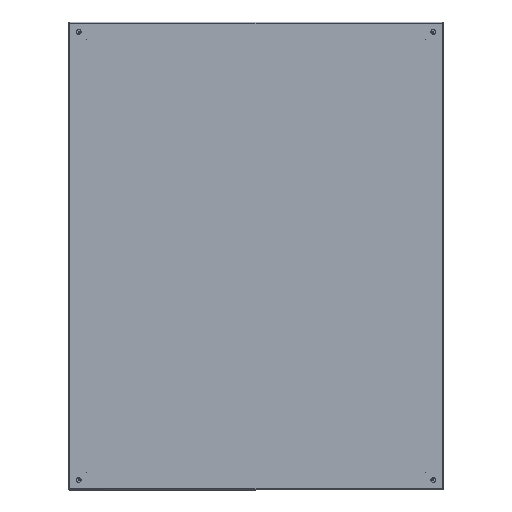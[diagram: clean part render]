
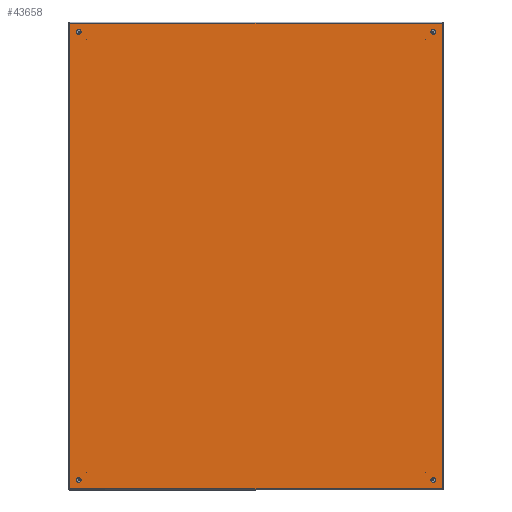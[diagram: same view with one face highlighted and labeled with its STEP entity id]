
A CAD part, top view. The second image highlights one B-rep face of the part: STEP entity #43658.
In plain terms, the highlighted planar face has unit normal (0, 0, 1).
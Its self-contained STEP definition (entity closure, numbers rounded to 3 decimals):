
#34 = FACE_OUTER_BOUND ( 'NONE', #14888, .T. ) ;
#337 = AXIS2_PLACEMENT_3D ( 'NONE', #46248, #38093, #42049 ) ;
#678 = EDGE_CURVE ( 'NONE', #11462, #45188, #27930, .T. ) ;
#741 = VERTEX_POINT ( 'NONE', #36334 ) ;
#1684 = DIRECTION ( 'NONE',  ( 0., 1., 0. ) ) ;
#1849 = CIRCLE ( 'NONE', #337, 5.1 ) ;
#2571 = AXIS2_PLACEMENT_3D ( 'NONE', #22077, #37409, #7241 ) ;
#2983 = CIRCLE ( 'NONE', #32227, 5.1 ) ;
#3221 = VERTEX_POINT ( 'NONE', #13424 ) ;
#3316 = EDGE_CURVE ( 'NONE', #3892, #46214, #2983, .T. ) ;
#3892 = VERTEX_POINT ( 'NONE', #38232 ) ;
#4427 = CARTESIAN_POINT ( 'NONE',  ( -379., 479., 0. ) ) ;
#4939 = CARTESIAN_POINT ( 'NONE',  ( 373.9, -479., 0. ) ) ;
#5797 = EDGE_CURVE ( 'NONE', #47337, #22203, #1849, .T. ) ;
#6408 = CARTESIAN_POINT ( 'NONE',  ( -397.65, -5500., 0. ) ) ;
#6475 = DIRECTION ( 'NONE',  ( -1., 0., 0. ) ) ;
#6547 = AXIS2_PLACEMENT_3D ( 'NONE', #26204, #18074, #41308 ) ;
#6582 = CARTESIAN_POINT ( 'NONE',  ( 397.65, 5500., 0. ) ) ;
#6800 = ORIENTED_EDGE ( 'NONE', *, *, #48860, .F. ) ;
#7167 = CARTESIAN_POINT ( 'NONE',  ( -397.65, 497.65, 0. ) ) ;
#7241 = DIRECTION ( 'NONE',  ( -1., 0., 0. ) ) ;
#8147 = ORIENTED_EDGE ( 'NONE', *, *, #44172, .F. ) ;
#8198 = CARTESIAN_POINT ( 'NONE',  ( 0., 0., 0. ) ) ;
#8237 = DIRECTION ( 'NONE',  ( 0., -1., 0. ) ) ;
#8388 = CARTESIAN_POINT ( 'NONE',  ( 397.65, 497.65, 0. ) ) ;
#8822 = ORIENTED_EDGE ( 'NONE', *, *, #20153, .F. ) ;
#9001 = EDGE_LOOP ( 'NONE', ( #8147, #10900 ) ) ;
#9808 = EDGE_CURVE ( 'NONE', #45188, #31794, #9851, .T. ) ;
#9851 = LINE ( 'NONE', #24639, #47131 ) ;
#10519 = CIRCLE ( 'NONE', #2571, 5.1 ) ;
#10900 = ORIENTED_EDGE ( 'NONE', *, *, #20800, .F. ) ;
#11462 = VERTEX_POINT ( 'NONE', #18913 ) ;
#11867 = DIRECTION ( 'NONE',  ( 1., 0., 0. ) ) ;
#12352 = EDGE_LOOP ( 'NONE', ( #40406, #8822 ) ) ;
#12721 = CIRCLE ( 'NONE', #28489, 5.1 ) ;
#13138 = ORIENTED_EDGE ( 'NONE', *, *, #27405, .F. ) ;
#13424 = CARTESIAN_POINT ( 'NONE',  ( 397.65, -497.65, 0. ) ) ;
#13839 = EDGE_CURVE ( 'NONE', #31794, #3221, #29581, .T. ) ;
#13926 = VECTOR ( 'NONE', #1684, 1000. ) ;
#14400 = FACE_BOUND ( 'NONE', #42721, .T. ) ;
#14683 = DIRECTION ( 'NONE',  ( -1., 0., 0. ) ) ;
#14888 = EDGE_LOOP ( 'NONE', ( #38091, #25853, #40216, #42588 ) ) ;
#15058 = CARTESIAN_POINT ( 'NONE',  ( 379., -479., 0. ) ) ;
#17425 = VERTEX_POINT ( 'NONE', #37516 ) ;
#17613 = FACE_BOUND ( 'NONE', #12352, .T. ) ;
#18074 = DIRECTION ( 'NONE',  ( 0., 0., 1. ) ) ;
#18129 = LINE ( 'NONE', #40376, #36572 ) ;
#18607 = CIRCLE ( 'NONE', #37532, 5.1 ) ;
#18913 = CARTESIAN_POINT ( 'NONE',  ( -397.65, -497.65, 0. ) ) ;
#18920 = DIRECTION ( 'NONE',  ( 0., 0., 1. ) ) ;
#19073 = DIRECTION ( 'NONE',  ( -1., 0., 0. ) ) ;
#19154 = DIRECTION ( 'NONE',  ( -1., 0., 0. ) ) ;
#19219 = DIRECTION ( 'NONE',  ( 0., 0., 1. ) ) ;
#20153 = EDGE_CURVE ( 'NONE', #22203, #47337, #34168, .T. ) ;
#20800 = EDGE_CURVE ( 'NONE', #17425, #23856, #31808, .T. ) ;
#22077 = CARTESIAN_POINT ( 'NONE',  ( -379., -479., 0. ) ) ;
#22203 = VERTEX_POINT ( 'NONE', #4939 ) ;
#23246 = DIRECTION ( 'NONE',  ( 0., 0., -1. ) ) ;
#23516 = VECTOR ( 'NONE', #8237, 1000. ) ;
#23856 = VERTEX_POINT ( 'NONE', #28071 ) ;
#24495 = EDGE_LOOP ( 'NONE', ( #32321, #13138 ) ) ;
#24639 = CARTESIAN_POINT ( 'NONE',  ( -5400., 497.65, 0. ) ) ;
#24890 = DIRECTION ( 'NONE',  ( 1., 0., 0. ) ) ;
#25853 = ORIENTED_EDGE ( 'NONE', *, *, #48865, .F. ) ;
#26204 = CARTESIAN_POINT ( 'NONE',  ( -379., 479., 0. ) ) ;
#26719 = PLANE ( 'NONE',  #46474 ) ;
#27109 = DIRECTION ( 'NONE',  ( 1., 0., 0. ) ) ;
#27405 = EDGE_CURVE ( 'NONE', #741, #41669, #12721, .T. ) ;
#27930 = LINE ( 'NONE', #6408, #13926 ) ;
#28071 = CARTESIAN_POINT ( 'NONE',  ( -373.9, 479., 0. ) ) ;
#28489 = AXIS2_PLACEMENT_3D ( 'NONE', #38193, #18920, #19154 ) ;
#28978 = DIRECTION ( 'NONE',  ( 0., 0., 1. ) ) ;
#29581 = LINE ( 'NONE', #6582, #23516 ) ;
#30389 = DIRECTION ( 'NONE',  ( 0., 0., 1. ) ) ;
#30432 = DIRECTION ( 'NONE',  ( 0., 0., 1. ) ) ;
#31794 = VERTEX_POINT ( 'NONE', #8388 ) ;
#31808 = CIRCLE ( 'NONE', #6547, 5.1 ) ;
#32173 = AXIS2_PLACEMENT_3D ( 'NONE', #4427, #30389, #11867 ) ;
#32227 = AXIS2_PLACEMENT_3D ( 'NONE', #48023, #28978, #6475 ) ;
#32321 = ORIENTED_EDGE ( 'NONE', *, *, #34352, .F. ) ;
#32566 = AXIS2_PLACEMENT_3D ( 'NONE', #15058, #19219, #27109 ) ;
#32699 = FACE_BOUND ( 'NONE', #24495, .T. ) ;
#33772 = CIRCLE ( 'NONE', #32173, 5.1 ) ;
#33788 = CARTESIAN_POINT ( 'NONE',  ( 384.1, 479., 0. ) ) ;
#34168 = CIRCLE ( 'NONE', #32566, 5.1 ) ;
#34352 = EDGE_CURVE ( 'NONE', #41669, #741, #18607, .T. ) ;
#36334 = CARTESIAN_POINT ( 'NONE',  ( 373.9, 479., 0. ) ) ;
#36572 = VECTOR ( 'NONE', #14683, 1000. ) ;
#37409 = DIRECTION ( 'NONE',  ( 0., 0., 1. ) ) ;
#37516 = CARTESIAN_POINT ( 'NONE',  ( -384.1, 479., 0. ) ) ;
#37532 = AXIS2_PLACEMENT_3D ( 'NONE', #43806, #30432, #19073 ) ;
#38091 = ORIENTED_EDGE ( 'NONE', *, *, #678, .F. ) ;
#38093 = DIRECTION ( 'NONE',  ( 0., 0., 1. ) ) ;
#38111 = FACE_BOUND ( 'NONE', #9001, .T. ) ;
#38193 = CARTESIAN_POINT ( 'NONE',  ( 379., 479., 0. ) ) ;
#38232 = CARTESIAN_POINT ( 'NONE',  ( -373.9, -479., 0. ) ) ;
#38952 = CARTESIAN_POINT ( 'NONE',  ( -384.1, -479., 0. ) ) ;
#40216 = ORIENTED_EDGE ( 'NONE', *, *, #13839, .F. ) ;
#40376 = CARTESIAN_POINT ( 'NONE',  ( 5400., -497.65, 0. ) ) ;
#40406 = ORIENTED_EDGE ( 'NONE', *, *, #5797, .F. ) ;
#41308 = DIRECTION ( 'NONE',  ( 1., 0., 0. ) ) ;
#41669 = VERTEX_POINT ( 'NONE', #33788 ) ;
#41723 = CARTESIAN_POINT ( 'NONE',  ( 384.1, -479., 0. ) ) ;
#42049 = DIRECTION ( 'NONE',  ( 1., 0., 0. ) ) ;
#42588 = ORIENTED_EDGE ( 'NONE', *, *, #9808, .F. ) ;
#42721 = EDGE_LOOP ( 'NONE', ( #48912, #6800 ) ) ;
#43658 = ADVANCED_FACE ( 'OUT_REAR', ( #14400, #17613, #32699, #38111, #34 ), #26719, .F. ) ;
#43806 = CARTESIAN_POINT ( 'NONE',  ( 379., 479., 0. ) ) ;
#44172 = EDGE_CURVE ( 'NONE', #23856, #17425, #33772, .T. ) ;
#45188 = VERTEX_POINT ( 'NONE', #7167 ) ;
#46214 = VERTEX_POINT ( 'NONE', #38952 ) ;
#46248 = CARTESIAN_POINT ( 'NONE',  ( 379., -479., 0. ) ) ;
#46262 = DIRECTION ( 'NONE',  ( -1., 0., 0. ) ) ;
#46474 = AXIS2_PLACEMENT_3D ( 'NONE', #8198, #23246, #46262 ) ;
#47131 = VECTOR ( 'NONE', #24890, 1000. ) ;
#47337 = VERTEX_POINT ( 'NONE', #41723 ) ;
#48023 = CARTESIAN_POINT ( 'NONE',  ( -379., -479., 0. ) ) ;
#48860 = EDGE_CURVE ( 'NONE', #46214, #3892, #10519, .T. ) ;
#48865 = EDGE_CURVE ( 'NONE', #3221, #11462, #18129, .T. ) ;
#48912 = ORIENTED_EDGE ( 'NONE', *, *, #3316, .F. ) ;
